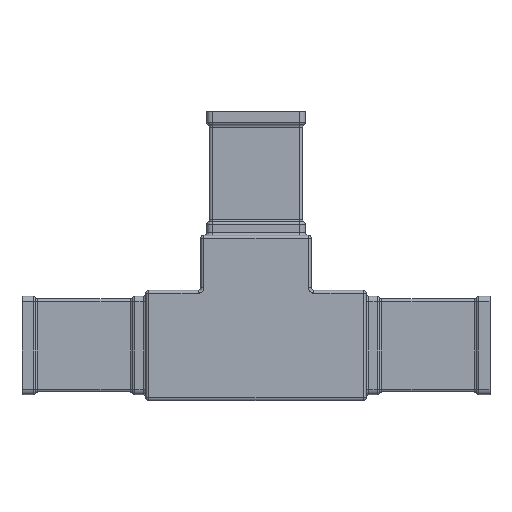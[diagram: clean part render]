
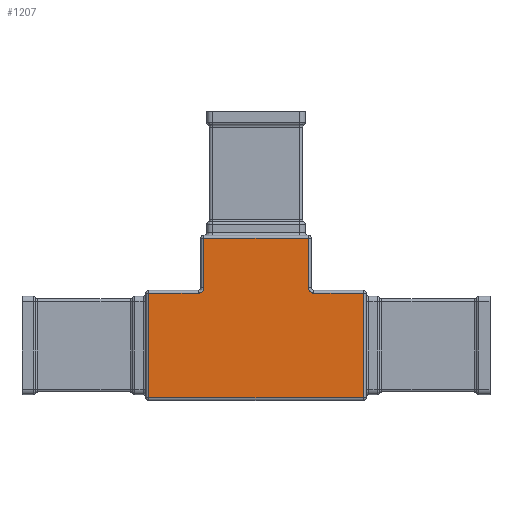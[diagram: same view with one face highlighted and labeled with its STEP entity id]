
A CAD part, front view. The second image highlights one B-rep face of the part: STEP entity #1207.
In plain terms, the highlighted planar face has unit normal (0, -1, 0).
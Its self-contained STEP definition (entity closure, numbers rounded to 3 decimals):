
#39 = CARTESIAN_POINT ( 'NONE',  ( -19., 0., 21. ) ) ;
#67 = CARTESIAN_POINT ( 'NONE',  ( -19., 0., 20.873 ) ) ;
#141 = CARTESIAN_POINT ( 'NONE',  ( 20.873, 0., 19. ) ) ;
#234 = DIRECTION ( 'NONE',  ( 0., 0., -1. ) ) ;
#266 = AXIS2_PLACEMENT_3D ( 'NONE', #1244, #6498, #5951 ) ;
#283 = VERTEX_POINT ( 'NONE', #827 ) ;
#308 = DIRECTION ( 'NONE',  ( 1., 0., 0. ) ) ;
#369 = EDGE_CURVE ( 'NONE', #4041, #1150, #2175, .T. ) ;
#490 = VECTOR ( 'NONE', #234, 1000. ) ;
#701 = VECTOR ( 'NONE', #308, 1000. ) ;
#739 = CARTESIAN_POINT ( 'NONE',  ( -19.391, 0., 19.781 ) ) ;
#812 = VECTOR ( 'NONE', #2314, 1000. ) ;
#827 = CARTESIAN_POINT ( 'NONE',  ( 39., 0., -19. ) ) ;
#875 = CARTESIAN_POINT ( 'NONE',  ( 0., 0., 39. ) ) ;
#906 = CARTESIAN_POINT ( 'NONE',  ( -19.683, 0., 19.488 ) ) ;
#969 = DIRECTION ( 'NONE',  ( -1., 0., 0. ) ) ;
#1135 = CARTESIAN_POINT ( 'NONE',  ( -20.745, 0., 19. ) ) ;
#1141 = ORIENTED_EDGE ( 'NONE', *, *, #369, .T. ) ;
#1150 = VERTEX_POINT ( 'NONE', #5011 ) ;
#1186 = EDGE_CURVE ( 'NONE', #6537, #283, #1881, .T. ) ;
#1207 = ADVANCED_FACE ( 'NONE', ( #8510 ), #4376, .T. ) ;
#1244 = CARTESIAN_POINT ( 'NONE',  ( 0., 0., 0. ) ) ;
#1283 = VECTOR ( 'NONE', #969, 1000. ) ;
#1419 = CARTESIAN_POINT ( 'NONE',  ( -19.129, 0., 20.293 ) ) ;
#1472 = EDGE_CURVE ( 'NONE', #3617, #8604, #5130, .T. ) ;
#1672 = CARTESIAN_POINT ( 'NONE',  ( 20.293, 0., 19.129 ) ) ;
#1686 = VECTOR ( 'NONE', #5668, 1000. ) ;
#1691 = CARTESIAN_POINT ( 'NONE',  ( -19., 0., 0. ) ) ;
#1697 = LINE ( 'NONE', #3837, #4192 ) ;
#1759 = CARTESIAN_POINT ( 'NONE',  ( 19.488, 0., 19.683 ) ) ;
#1854 = CARTESIAN_POINT ( 'NONE',  ( 19.153, 0., 20.232 ) ) ;
#1872 = EDGE_CURVE ( 'NONE', #3730, #8426, #8466, .T. ) ;
#1881 = LINE ( 'NONE', #7392, #701 ) ;
#2175 = LINE ( 'NONE', #5579, #1686 ) ;
#2208 = CARTESIAN_POINT ( 'NONE',  ( 20.28, 0., 19.134 ) ) ;
#2251 = CARTESIAN_POINT ( 'NONE',  ( -19.118, 0., 20.323 ) ) ;
#2266 = ORIENTED_EDGE ( 'NONE', *, *, #7804, .T. ) ;
#2314 = DIRECTION ( 'NONE',  ( 0., 0., -1. ) ) ;
#2410 = DIRECTION ( 'NONE',  ( -1., 0., 0. ) ) ;
#2430 = CARTESIAN_POINT ( 'NONE',  ( 19.188, 0., 20.153 ) ) ;
#2493 = VECTOR ( 'NONE', #4615, 1000. ) ;
#2516 = EDGE_CURVE ( 'NONE', #6267, #3730, #1697, .T. ) ;
#2805 = EDGE_CURVE ( 'NONE', #2948, #4041, #6657, .T. ) ;
#2818 = EDGE_CURVE ( 'NONE', #8426, #3617, #7948, .T. ) ;
#2819 = ORIENTED_EDGE ( 'NONE', *, *, #4521, .T. ) ;
#2834 = ORIENTED_EDGE ( 'NONE', *, *, #1186, .T. ) ;
#2869 = CARTESIAN_POINT ( 'NONE',  ( 20.686, 0., 19.018 ) ) ;
#2915 = CARTESIAN_POINT ( 'NONE',  ( -20.153, 0., 19.188 ) ) ;
#2948 = VERTEX_POINT ( 'NONE', #39 ) ;
#2964 = CARTESIAN_POINT ( 'NONE',  ( -20.249, 0., 19.146 ) ) ;
#3051 = CARTESIAN_POINT ( 'NONE',  ( 19.146, 0., 20.249 ) ) ;
#3171 = CARTESIAN_POINT ( 'NONE',  ( 39., 0., 19. ) ) ;
#3189 = LINE ( 'NONE', #7953, #4110 ) ;
#3381 = CARTESIAN_POINT ( 'NONE',  ( 21., 0., 19. ) ) ;
#3422 = CARTESIAN_POINT ( 'NONE',  ( -19., 0., 21. ) ) ;
#3462 = CARTESIAN_POINT ( 'NONE',  ( -20.046, 0., 19.24 ) ) ;
#3474 = CARTESIAN_POINT ( 'NONE',  ( 19., 0., 39. ) ) ;
#3617 = VERTEX_POINT ( 'NONE', #3474 ) ;
#3627 = CARTESIAN_POINT ( 'NONE',  ( -19.841, 0., 19.359 ) ) ;
#3642 = LINE ( 'NONE', #1691, #812 ) ;
#3675 = CARTESIAN_POINT ( 'NONE',  ( -19.242, 0., 20.007 ) ) ;
#3730 = VERTEX_POINT ( 'NONE', #3381 ) ;
#3837 = CARTESIAN_POINT ( 'NONE',  ( 0., 0., 19. ) ) ;
#3898 = CARTESIAN_POINT ( 'NONE',  ( 19., 0., 21. ) ) ;
#3899 = CARTESIAN_POINT ( 'NONE',  ( -21., 0., 19. ) ) ;
#3944 = CARTESIAN_POINT ( 'NONE',  ( 19.167, 0., 20.2 ) ) ;
#4034 = EDGE_CURVE ( 'NONE', #8604, #2948, #3642, .T. ) ;
#4041 = VERTEX_POINT ( 'NONE', #5040 ) ;
#4110 = VECTOR ( 'NONE', #4582, 1000. ) ;
#4192 = VECTOR ( 'NONE', #2410, 1000. ) ;
#4212 = CARTESIAN_POINT ( 'NONE',  ( 21., 0., 19. ) ) ;
#4376 = PLANE ( 'NONE',  #266 ) ;
#4390 = CARTESIAN_POINT ( 'NONE',  ( 20.007, 0., 19.242 ) ) ;
#4521 = EDGE_CURVE ( 'NONE', #283, #6267, #3189, .T. ) ;
#4582 = DIRECTION ( 'NONE',  ( 0., 0., 1. ) ) ;
#4615 = DIRECTION ( 'NONE',  ( 0., 0., 1. ) ) ;
#4908 = ORIENTED_EDGE ( 'NONE', *, *, #1472, .T. ) ;
#4999 = CARTESIAN_POINT ( 'NONE',  ( 19., 0., 21. ) ) ;
#5011 = CARTESIAN_POINT ( 'NONE',  ( -39., 0., 19. ) ) ;
#5040 = CARTESIAN_POINT ( 'NONE',  ( -21., 0., 19. ) ) ;
#5130 = LINE ( 'NONE', #875, #1283 ) ;
#5202 = CARTESIAN_POINT ( 'NONE',  ( 19., 0., 0. ) ) ;
#5244 = ORIENTED_EDGE ( 'NONE', *, *, #2805, .T. ) ;
#5251 = CARTESIAN_POINT ( 'NONE',  ( 19.359, 0., 19.841 ) ) ;
#5301 = CARTESIAN_POINT ( 'NONE',  ( 19.24, 0., 20.046 ) ) ;
#5334 = ORIENTED_EDGE ( 'NONE', *, *, #1872, .T. ) ;
#5579 = CARTESIAN_POINT ( 'NONE',  ( 0., 0., 19. ) ) ;
#5609 = CARTESIAN_POINT ( 'NONE',  ( 20.473, 0., 19.069 ) ) ;
#5668 = DIRECTION ( 'NONE',  ( -1., 0., 0. ) ) ;
#5709 = CARTESIAN_POINT ( 'NONE',  ( -19.102, 0., 20.368 ) ) ;
#5925 = CARTESIAN_POINT ( 'NONE',  ( 19., 0., 20.745 ) ) ;
#5951 = DIRECTION ( 'NONE',  ( 0., 0., -1. ) ) ;
#5986 = CARTESIAN_POINT ( 'NONE',  ( -39., 0., -19. ) ) ;
#6014 = ORIENTED_EDGE ( 'NONE', *, *, #2818, .T. ) ;
#6267 = VERTEX_POINT ( 'NONE', #3171 ) ;
#6379 = CARTESIAN_POINT ( 'NONE',  ( -20.2, 0., 19.167 ) ) ;
#6498 = DIRECTION ( 'NONE',  ( 0., -1., 0. ) ) ;
#6537 = VERTEX_POINT ( 'NONE', #5986 ) ;
#6653 = CARTESIAN_POINT ( 'NONE',  ( 19.781, 0., 19.391 ) ) ;
#6656 = ORIENTED_EDGE ( 'NONE', *, *, #4034, .T. ) ;
#6657 = B_SPLINE_CURVE_WITH_KNOTS ( 'NONE', 3,
 ( #3422, #67, #7104, #7568, #5709, #2251, #1419, #6895, #3675, #739, #906, #3627, #3462, #2915, #6379, #8385, #2964, #8609, #1135, #3899 ),
 .UNSPECIFIED., .F., .F.,
 ( 4, 1, 1, 1, 2, 2, 2, 1, 1, 1, 2, 2, 4 ),
 ( 0., 0.125, 0.188, 0.219, 0.234, 0.25, 0.5, 0.625, 0.687, 0.719, 0.734, 0.75, 1. ),
 .UNSPECIFIED. ) ;
#6817 = EDGE_LOOP ( 'NONE', ( #5244, #1141, #2266, #2834, #2819, #8425, #5334, #6014, #4908, #6656 ) ) ;
#6895 = CARTESIAN_POINT ( 'NONE',  ( -19.134, 0., 20.28 ) ) ;
#7104 = CARTESIAN_POINT ( 'NONE',  ( -19.018, 0., 20.686 ) ) ;
#7392 = CARTESIAN_POINT ( 'NONE',  ( 0., 0., -19. ) ) ;
#7568 = CARTESIAN_POINT ( 'NONE',  ( -19.069, 0., 20.473 ) ) ;
#7774 = CARTESIAN_POINT ( 'NONE',  ( -39., 0., 0. ) ) ;
#7804 = EDGE_CURVE ( 'NONE', #1150, #6537, #8572, .T. ) ;
#7815 = CARTESIAN_POINT ( 'NONE',  ( 20.368, 0., 19.102 ) ) ;
#7948 = LINE ( 'NONE', #5202, #2493 ) ;
#7953 = CARTESIAN_POINT ( 'NONE',  ( 39., 0., 0. ) ) ;
#8059 = CARTESIAN_POINT ( 'NONE',  ( -19., 0., 39. ) ) ;
#8338 = CARTESIAN_POINT ( 'NONE',  ( 20.323, 0., 19.118 ) ) ;
#8385 = CARTESIAN_POINT ( 'NONE',  ( -20.232, 0., 19.153 ) ) ;
#8425 = ORIENTED_EDGE ( 'NONE', *, *, #2516, .T. ) ;
#8426 = VERTEX_POINT ( 'NONE', #4999 ) ;
#8466 = B_SPLINE_CURVE_WITH_KNOTS ( 'NONE', 3,
 ( #4212, #141, #2869, #5609, #7815, #8338, #1672, #2208, #4390, #6653, #1759, #5251, #5301, #2430, #3944, #1854, #3051, #8703, #5925, #3898 ),
 .UNSPECIFIED., .F., .F.,
 ( 4, 1, 1, 1, 2, 2, 2, 1, 1, 1, 2, 2, 4 ),
 ( 0., 0.125, 0.187, 0.219, 0.234, 0.25, 0.5, 0.625, 0.687, 0.719, 0.734, 0.75, 1. ),
 .UNSPECIFIED. ) ;
#8510 = FACE_OUTER_BOUND ( 'NONE', #6817, .T. ) ;
#8572 = LINE ( 'NONE', #7774, #490 ) ;
#8604 = VERTEX_POINT ( 'NONE', #8059 ) ;
#8609 = CARTESIAN_POINT ( 'NONE',  ( -20.5, 0., 19.047 ) ) ;
#8703 = CARTESIAN_POINT ( 'NONE',  ( 19.047, 0., 20.5 ) ) ;
